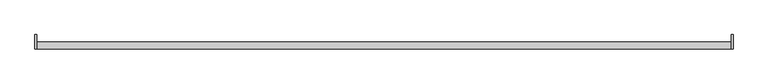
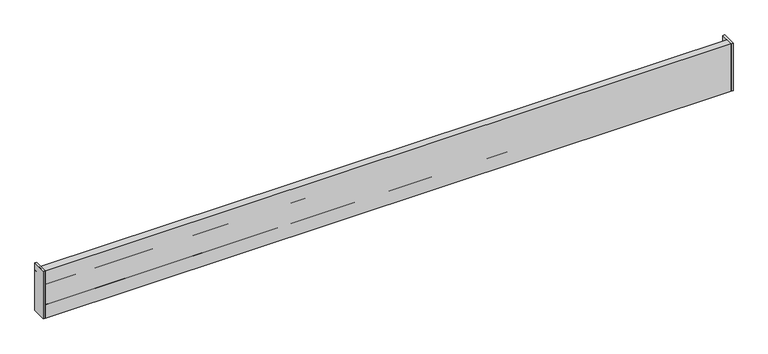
"""IFC4 building model written with IfcOpenShell, lengths in millimetres: furniture geometry."""

from ifc_helpers import new_model, si_unit, frame, origin, place, context, project, spatial, polyline, outline, extrude, source, transform, mapped, element, save


def furniture_960b9f32(model_context):
    return source(origin(), model_context, "Body", "SweptSolid", [
        extrude(outline(polyline([(-606.425, 12.6999996), (-606.425, -12.7000004), (-609.6, -12.7000004), (-609.6, 12.6999996), (-606.425, 12.6999996)])), frame((0.0, 0.0, 1892.3), z_axis=(0.0, 0.0, 1.0), x_axis=(1.0, 0.0, 0.0)), (0.0, 0.0, 1.0), 88.9),
        extrude(outline(polyline([(609.6, 12.6999996), (609.6, -12.7000004), (606.425, -12.7000004), (606.425, 12.6999996), (609.6, 12.6999996)])), frame((0.0, 0.0, 1892.3), z_axis=(0.0, 0.0, 1.0), x_axis=(1.0, 0.0, 0.0)), (0.0, 0.0, 1.0), 88.9),
        extrude(outline(polyline([(606.425, 0.0), (606.425, -12.7000004), (-606.425, -12.7000004), (-606.425, 0.0), (606.425, 0.0)])), frame((0.0, 0.0, 1892.3), z_axis=(0.0, 0.0, 1.0), x_axis=(1.0, 0.0, 0.0)), (0.0, 0.0, 1.0), 88.9),
        extrude(outline(polyline([(-12.7000004, 1968.4999966), (-12.7000004, 1981.2), (0.0, 1981.2), (0.0, 1892.3), (-12.7000004, 1892.3), (-12.7000004, 1917.6999966), (-3.1750002, 1917.6999966), (-3.1750002, 1930.3999966), (-12.7000004, 1930.3999966), (-12.7000004, 1955.7999966), (-3.1750002, 1955.7999966), (-3.1750002, 1968.4999966), (-12.7000004, 1968.4999966)])), frame((-606.425, 0.0, 0.0), z_axis=(1.0, 0.0, 0.0), x_axis=(0.0, 1.0, 0.0)), (0.0, 0.0, 1.0), 1212.85),
        extrude(outline(polyline([(-12.7000004, 1981.2), (0.0, 1981.2), (0.0, 1968.4999966), (12.6999996, 1968.4999966), (12.6999996, 1904.999997), (0.0, 1904.999997), (0.0, 1892.3), (-12.7000004, 1892.3), (-12.7000004, 1981.2)])), frame((-609.6, 0.0, 0.0), z_axis=(1.0, 0.0, 0.0), x_axis=(0.0, 1.0, 0.0)), (0.0, 0.0, 1.0), 3.175),
        extrude(outline(polyline([(-12.7000004, 1981.2), (0.0, 1981.2), (0.0, 1968.4999966), (12.6999996, 1968.4999966), (12.6999996, 1904.999997), (0.0, 1904.999997), (0.0, 1892.3), (-12.7000004, 1892.3), (-12.7000004, 1981.2)])), frame((606.425, 0.0, 0.0), z_axis=(1.0, 0.0, 0.0), x_axis=(0.0, 1.0, 0.0)), (0.0, 0.0, 1.0), 3.175),
    ])


if __name__ == "__main__":
    model = new_model("IFC4")
    model_context = context("Model", 3, world=origin())
    ifc_project = project(units=[si_unit("LENGTHUNIT", "METRE", prefix="MILLI")], contexts=[model_context])
    site = spatial("IfcSite", under=ifc_project)
    building = spatial("IfcBuilding", under=site)
    placement = place(None, origin())
    furniture_shape = furniture_960b9f32(model_context)
    element("IfcFurniture", 1, ObjectType="HermanMiller_ActionOffice_A3610_ToolBar : 4\"H x 48\"W", at=placement, inside=building, context=model_context, shape_type="MappedRepresentation", body=[
        mapped(furniture_shape, transform((0.0, 0.0, 0.0), x_axis=(1.0, 0.0, 0.0), y_axis=(0.0, 1.0, 0.0), z_axis=(0.0, 0.0, 1.0))),
    ])
    save(model, "model.ifc")
